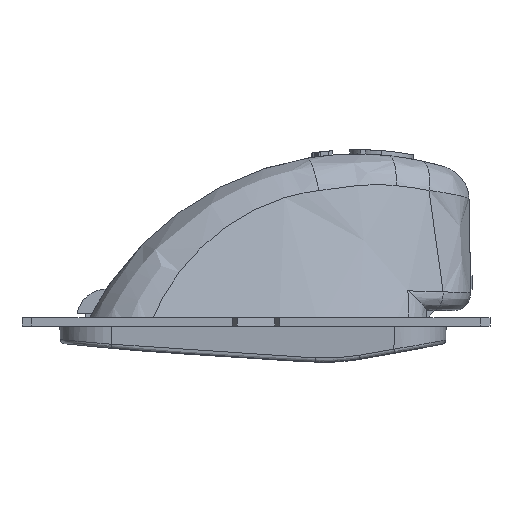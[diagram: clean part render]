
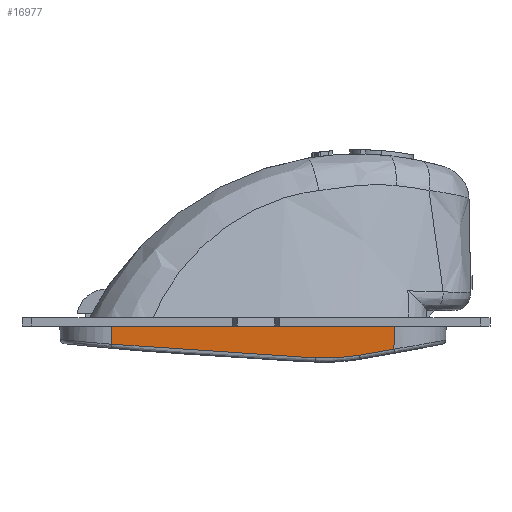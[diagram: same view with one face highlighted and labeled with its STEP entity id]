
A CAD part, left-side view. The second image highlights one B-rep face of the part: STEP entity #16977.
In plain terms, the highlighted planar face has unit normal (-0.999, 0, -0.035).
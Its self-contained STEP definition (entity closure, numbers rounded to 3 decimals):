
#236 = VERTEX_POINT ( 'NONE', #13308 ) ;
#638 = CARTESIAN_POINT ( 'NONE',  ( -51.872, -33.207, -3.679 ) ) ;
#784 = CARTESIAN_POINT ( 'NONE',  ( -51.926, -6.07, -2.108 ) ) ;
#973 = ORIENTED_EDGE ( 'NONE', *, *, #16605, .F. ) ;
#1068 = CARTESIAN_POINT ( 'NONE',  ( -51.906, -38.91, -2.687 ) ) ;
#1433 = ORIENTED_EDGE ( 'NONE', *, *, #15502, .T. ) ;
#1809 = LINE ( 'NONE', #2002, #9238 ) ;
#1843 = ORIENTED_EDGE ( 'NONE', *, *, #7489, .F. ) ;
#2002 = CARTESIAN_POINT ( 'NONE',  ( -52., -45., 0. ) ) ;
#2659 = VERTEX_POINT ( 'NONE', #4204 ) ;
#4204 = CARTESIAN_POINT ( 'NONE',  ( -51.906, -38.91, -2.687 ) ) ;
#4415 = VERTEX_POINT ( 'NONE', #16578 ) ;
#4610 = B_SPLINE_CURVE_WITH_KNOTS ( 'NONE', 3,
 ( #6973, #14307, #8443, #18738 ),
 .UNSPECIFIED., .F., .F.,
 ( 4, 4 ),
 ( 0., 1. ),
 .UNSPECIFIED. ) ;
#5104 = AXIS2_PLACEMENT_3D ( 'NONE', #9229, #16665, #7862 ) ;
#5619 = ORIENTED_EDGE ( 'NONE', *, *, #7096, .T. ) ;
#6210 = VECTOR ( 'NONE', #12819, 1000. ) ;
#6973 = CARTESIAN_POINT ( 'NONE',  ( -51.87, -29.758, -3.71 ) ) ;
#7096 = EDGE_CURVE ( 'NONE', #236, #14884, #15191, .T. ) ;
#7338 = CARTESIAN_POINT ( 'NONE',  ( -52., -5.996, 0. ) ) ;
#7489 = EDGE_CURVE ( 'NONE', #14466, #11158, #16452, .T. ) ;
#7572 = FACE_OUTER_BOUND ( 'NONE', #11537, .T. ) ;
#7862 = DIRECTION ( 'NONE',  ( -0.035, 0., 0.999 ) ) ;
#8443 = CARTESIAN_POINT ( 'NONE',  ( -51.901, -13.952, -2.829 ) ) ;
#9064 = DIRECTION ( 'NONE',  ( -0.035, 0.035, 0.999 ) ) ;
#9204 = CARTESIAN_POINT ( 'NONE',  ( -51.953, -6.044, -1.359 ) ) ;
#9229 = CARTESIAN_POINT ( 'NONE',  ( -52., -45., 0. ) ) ;
#9238 = VECTOR ( 'NONE', #18191, 1000. ) ;
#9938 = CARTESIAN_POINT ( 'NONE',  ( -51.898, -37.58, -2.931 ) ) ;
#11018 = CARTESIAN_POINT ( 'NONE',  ( -51.882, -34.914, -3.391 ) ) ;
#11158 = VERTEX_POINT ( 'NONE', #7338 ) ;
#11537 = EDGE_LOOP ( 'NONE', ( #1843, #973, #5619, #19001, #17440, #1433 ) ) ;
#11747 = EDGE_CURVE ( 'NONE', #14884, #2659, #16237, .T. ) ;
#12819 = DIRECTION ( 'NONE',  ( -0.035, -0.035, 0.999 ) ) ;
#13308 = CARTESIAN_POINT ( 'NONE',  ( -51.87, -29.758, -3.71 ) ) ;
#14307 = CARTESIAN_POINT ( 'NONE',  ( -51.883, -21.851, -3.364 ) ) ;
#14466 = VERTEX_POINT ( 'NONE', #784 ) ;
#14489 = EDGE_CURVE ( 'NONE', #2659, #4415, #17946, .T. ) ;
#14884 = VERTEX_POINT ( 'NONE', #16648 ) ;
#15191 = B_SPLINE_CURVE_WITH_KNOTS ( 'NONE', 3,
 ( #16855, #15392, #638, #11018 ),
 .UNSPECIFIED., .F., .F.,
 ( 4, 4 ),
 ( 0., 1. ),
 .UNSPECIFIED. ) ;
#15197 = PLANE ( 'NONE',  #5104 ) ;
#15392 = CARTESIAN_POINT ( 'NONE',  ( -51.868, -31.488, -3.786 ) ) ;
#15502 = EDGE_CURVE ( 'NONE', #4415, #11158, #1809, .T. ) ;
#16237 = B_SPLINE_CURVE_WITH_KNOTS ( 'NONE', 3,
 ( #17266, #17139, #9938, #1068 ),
 .UNSPECIFIED., .F., .F.,
 ( 4, 4 ),
 ( 0., 1. ),
 .UNSPECIFIED. ) ;
#16452 = LINE ( 'NONE', #9204, #16929 ) ;
#16578 = CARTESIAN_POINT ( 'NONE',  ( -52., -39.004, 0. ) ) ;
#16605 = EDGE_CURVE ( 'NONE', #236, #14466, #4610, .T. ) ;
#16648 = CARTESIAN_POINT ( 'NONE',  ( -51.882, -34.914, -3.391 ) ) ;
#16665 = DIRECTION ( 'NONE',  ( -0.999, 0., -0.035 ) ) ;
#16855 = CARTESIAN_POINT ( 'NONE',  ( -51.87, -29.758, -3.71 ) ) ;
#16929 = VECTOR ( 'NONE', #9064, 1000. ) ;
#16977 = ADVANCED_FACE ( 'NONE', ( #7572 ), #15197, .T. ) ;
#17139 = CARTESIAN_POINT ( 'NONE',  ( -51.889, -36.248, -3.165 ) ) ;
#17181 = CARTESIAN_POINT ( 'NONE',  ( -51.906, -38.91, -2.687 ) ) ;
#17266 = CARTESIAN_POINT ( 'NONE',  ( -51.882, -34.914, -3.391 ) ) ;
#17440 = ORIENTED_EDGE ( 'NONE', *, *, #14489, .T. ) ;
#17946 = LINE ( 'NONE', #17181, #6210 ) ;
#18191 = DIRECTION ( 'NONE',  ( 0., 1., 0. ) ) ;
#18738 = CARTESIAN_POINT ( 'NONE',  ( -51.926, -6.07, -2.108 ) ) ;
#19001 = ORIENTED_EDGE ( 'NONE', *, *, #11747, .T. ) ;
